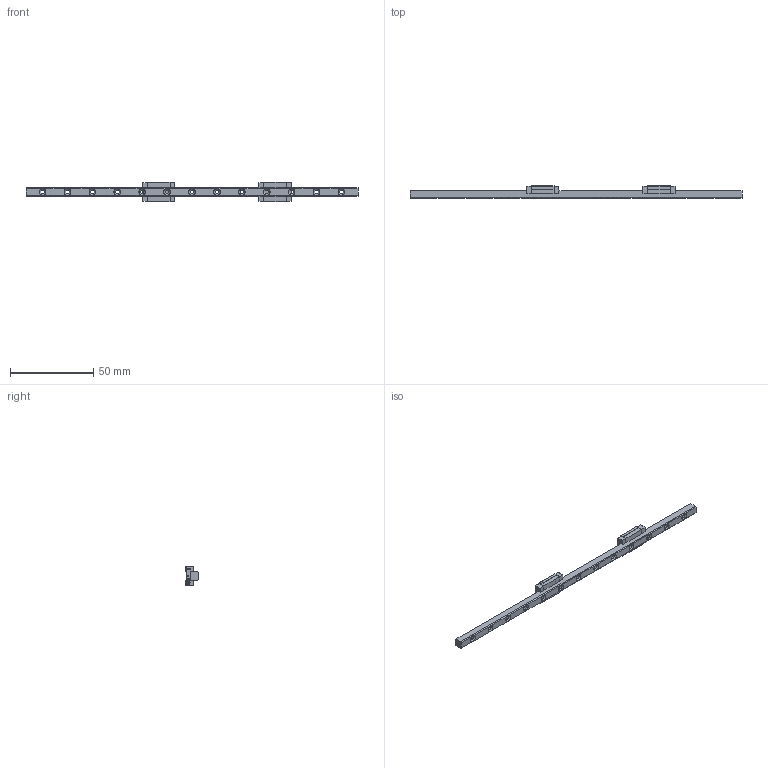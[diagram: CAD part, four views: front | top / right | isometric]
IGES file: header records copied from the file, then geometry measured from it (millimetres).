
Start section: SolidWorks IGES file using analytic representation for surfaces
Global section: file name: H:\直得科技CAD圖檔\3D目錄檔\MR-M Series\5ML.IGS; native system: SolidWorks 2005 by SolidWorks Corporation; preprocessor: SolidWorks 2005 by SolidWorks Corporation; author: cpc; date: 050331.121405; units: millimetre
Bounding box: 200 x 7.5 x 12 mm (x, y, z)
Surface area: 5311.7 mm2 (no closed solid volume)
Topology: 0 solids, 0 shells, 526 faces, 6952 edges, 6936 vertices
Faces by surface type: bspline 350, revolution 176
